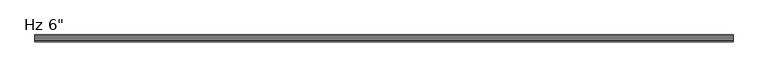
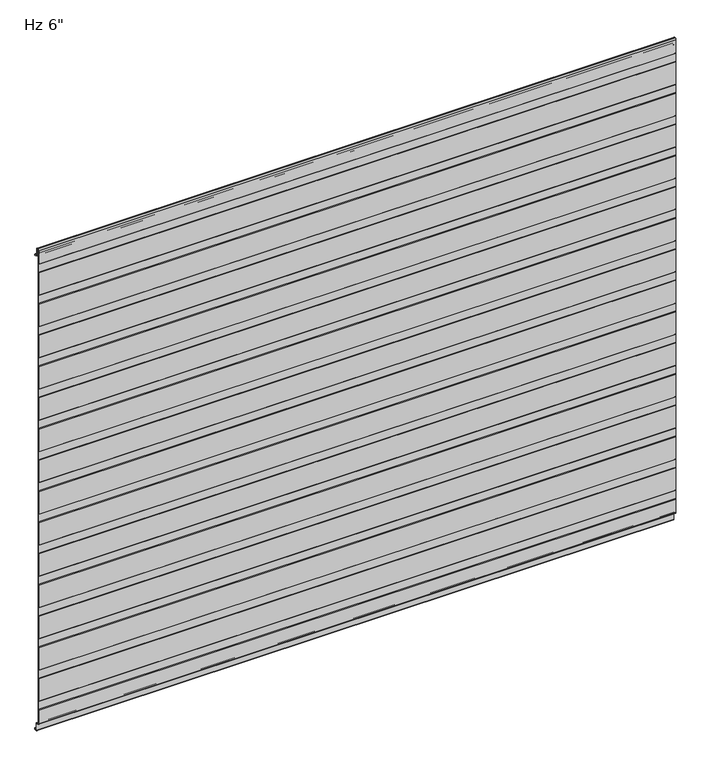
"""IFC4 building model written with IfcOpenShell, lengths in millimetres: plate geometry."""

from ifc_helpers import new_model, si_unit, frame, origin, place, context, project, spatial, polyline, circle_curve, source, transform, mapped, element, save
from ifc_brep_helpers import plane_surface, cylinder_surface, revolved_surface, advanced_brep


def plate_5d8f1cdd(model_context):
    return source(origin(), model_context, "Body", "AdvancedBrep", [
        advanced_brep(
        [(-730.0, -152.4, 966.9508592), (-730.0, -152.4, 1021.5303137), (-730.0, -151.2088405, 1022.6028385), (-730.0, -151.2088405, 1041.5009546), (-730.0, -152.4, 1042.5734794), (-730.0, -152.4, 1097.152934), (-730.0, -151.2088405, 1098.2254588), (-730.0, -151.2088405, 1117.1235749), (-730.0, -152.3999956, 1118.1960958), (-730.0, -152.3999956, 1150.8100652), (-730.0, -149.4227271, 1153.7873337), (-730.0, -148.3806285, 1153.7873337), (-730.0, -145.40336, 1150.8100652), (-730.0, -145.40336, 1136.6216801), (-730.0, -143.8154834, 1135.0338036), (-730.0, -139.4950653, 1135.0338036), (-730.0, -137.9065979, 1133.3929042), (-730.0, -137.9065979, 1131.0482432), (-730.0, -138.9060718, 1131.0482432), (-730.0, -138.9060718, 1133.4253365), (-730.0, -139.4950653, 1134.0338037), (-730.0, -143.8154834, 1134.0338037), (-730.0, -146.40336, 1136.6216801), (-730.0, -146.40336, 1150.8100652), (-730.0, -148.3806285, 1152.7873337), (-730.0, -149.4227271, 1152.7873337), (-730.0, -151.3999956, 1150.8100652), (-730.0, -151.3999956, 1118.6385351), (-730.0, -150.2088405, 1117.5660142), (-730.0, -150.2088405, 1097.7830195), (-730.0, -151.4, 1096.7104947), (-730.0, -151.4, 1043.0159187), (-730.0, -150.2088405, 1041.9433939), (-730.0, -150.2088405, 1022.1603992), (-730.0, -151.4, 1021.0878744), (-730.0, -151.4, 967.3932985), (-730.0, -150.2088405, 966.3207736), (-730.0, -150.2088405, 946.537779), (-730.0, -151.4, 945.4652541), (-730.0, -151.4, 891.7706782), (-730.0, -150.2088405, 890.6981534), (-730.0, -150.2088405, 870.9151587), (-730.0, -151.4, 869.8426339), (-730.0, -151.4, 816.148058), (-730.0, -150.2088405, 815.0755331), (-730.0, -150.2088405, 795.2925384), (-730.0, -151.4, 794.2200136), (-730.0, -151.4, 740.5254377), (-730.0, -150.2088405, 739.4529129), (-730.0, -150.2088405, 719.6699182), (-730.0, -151.4, 718.5973933), (-730.0, -151.4, 664.9028174), (-730.0, -150.2088405, 663.8302926), (-730.0, -150.2088405, 644.0472979), (-730.0, -151.4, 642.9747731), (-730.0, -151.4, 589.2801972), (-730.0, -150.2088405, 588.2076723), (-730.0, -150.2088405, 568.4246776), (-730.0, -151.4, 567.3521528), (-730.0, -151.4, 513.6575769), (-730.0, -150.2088405, 512.5850521), (-730.0, -150.2088405, 492.8020574), (-730.0, -151.4, 491.7295325), (-730.0, -151.4, 438.0349566), (-730.0, -150.2088405, 436.9624318), (-730.0, -150.2088405, 417.1794371), (-730.0, -151.4, 416.1069123), (-730.0, -151.4, 362.4123364), (-730.0, -150.2088405, 361.3398115), (-730.0, -150.2088405, 341.5568169), (-730.0, -151.4, 340.484292), (-730.0, -151.4, 286.7897161), (-730.0, -150.2088405, 285.7171913), (-730.0, -150.2088405, 265.9341966), (-730.0, -151.4, 264.8616718), (-730.0, -151.4, 211.1670958), (-730.0, -150.2088405, 210.094571), (-730.0, -150.2088405, 190.3115763), (-730.0, -151.4, 189.2390515), (-730.0, -151.4, 135.5444756), (-730.0, -150.2088405, 134.4719507), (-730.0, -150.2088405, 114.6889561), (-730.0, -151.4, 113.6164312), (-730.0, -151.4, 59.9218553), (-730.0, -150.2088405, 58.8493305), (-730.0, -150.2088405, 39.0663358), (-730.0, -151.4, 37.993811), (-730.0, -151.4, 5.82722), (-730.0, -149.4227096, 3.8499526), (-730.0, -147.1308258, 3.8499526), (-730.0, -143.1535573, -0.1273159), (-730.0, -143.1535573, -15.7237419), (-730.0, -142.5656807, -16.3116185), (-730.0, -139.494132, -16.3116185), (-730.0, -138.9062555, -15.7237419), (-730.0, -138.9062555, -13.3687064), (-730.0, -137.9062555, -13.3687064), (-730.0, -137.9062555, -15.7237419), (-730.0, -139.494132, -17.3116185), (-730.0, -142.5656807, -17.3116185), (-730.0, -144.1535573, -15.7237419), (-730.0, -144.1535573, -0.1273159), (-730.0, -147.1308258, 2.8499526), (-730.0, -149.4227096, 2.8499526), (-730.0, -152.3999782, 5.8272193), (-730.0, -152.4, 38.4362503), (-730.0, -151.2088405, 39.5087751), (-730.0, -151.2088405, 58.4068912), (-730.0, -152.4, 59.479416), (-730.0, -152.4, 114.0588705), (-730.0, -151.2088405, 115.1313954), (-730.0, -151.2088405, 134.0295114), (-730.0, -152.4, 135.1020363), (-730.0, -152.4, 189.6814908), (-730.0, -151.2088405, 190.7540156), (-730.0, -151.2088405, 209.6521317), (-730.0, -152.4, 210.7246565), (-730.0, -152.4, 265.3041111), (-730.0, -151.2088405, 266.3766359), (-730.0, -151.2088405, 285.274752), (-730.0, -152.4, 286.3472768), (-730.0, -152.4, 340.9267313), (-730.0, -151.2088405, 341.9992562), (-730.0, -151.2088405, 360.8973722), (-730.0, -152.4, 361.9698971), (-730.0, -152.4, 416.5493516), (-730.0, -151.2088405, 417.6218764), (-730.0, -151.2088405, 436.5199925), (-730.0, -152.4, 437.5925173), (-730.0, -152.4, 492.1719719), (-730.0, -151.2088405, 493.2444967), (-730.0, -151.2088405, 512.1426127), (-730.0, -152.4, 513.2151376), (-730.0, -152.4, 567.7945921), (-730.0, -151.2088405, 568.867117), (-730.0, -151.2088405, 587.765233), (-730.0, -152.4, 588.8377578), (-730.0, -152.4, 643.4172124), (-730.0, -151.2088405, 644.4897372), (-730.0, -151.2088405, 663.3878533), (-730.0, -152.4, 664.4603781), (-730.0, -152.4, 719.0398327), (-730.0, -151.2088405, 720.1123575), (-730.0, -151.2088405, 739.0104735), (-730.0, -152.4, 740.0829984), (-730.0, -152.4, 794.6624529), (-730.0, -151.2088405, 795.7349778), (-730.0, -151.2088405, 814.6330938), (-730.0, -152.4, 815.7056186), (-730.0, -152.4, 870.2850732), (-730.0, -151.2088405, 871.357598), (-730.0, -151.2088405, 890.2557141), (-730.0, -152.4, 891.3282389), (-730.0, -152.4, 945.9076934), (-730.0, -151.2088405, 946.9802183), (-730.0, -151.2088405, 965.8783343), (730.0, -152.4, 966.9508592), (730.0, -151.2088405, 965.8783343), (730.0, -151.2088405, 946.9802183), (730.0, -152.4, 945.9076934), (730.0, -152.4, 891.3282389), (730.0, -151.2088405, 890.2557141), (730.0, -151.2088405, 871.357598), (730.0, -152.4, 870.2850732), (730.0, -152.4, 815.7056186), (730.0, -151.2088405, 814.6330938), (730.0, -151.2088405, 795.7349778), (730.0, -152.4, 794.6624529), (730.0, -152.4, 740.0829984), (730.0, -151.2088405, 739.0104735), (730.0, -151.2088405, 720.1123575), (730.0, -152.4, 719.0398327), (730.0, -152.4, 664.4603781), (730.0, -151.2088405, 663.3878533), (730.0, -151.2088405, 644.4897372), (730.0, -152.4, 643.4172124), (730.0, -152.4, 588.8377578), (730.0, -151.2088405, 587.765233), (730.0, -151.2088405, 568.867117), (730.0, -152.4, 567.7945921), (730.0, -152.4, 513.2151376), (730.0, -151.2088405, 512.1426127), (730.0, -151.2088405, 493.2444967), (730.0, -152.4, 492.1719719), (730.0, -152.4, 437.5925173), (730.0, -151.2088405, 436.5199925), (730.0, -151.2088405, 417.6218764), (730.0, -152.4, 416.5493516), (730.0, -152.4, 361.9698971), (730.0, -151.2088405, 360.8973722), (730.0, -151.2088405, 341.9992562), (730.0, -152.4, 340.9267313), (730.0, -152.4, 286.3472768), (730.0, -151.2088405, 285.274752), (730.0, -151.2088405, 266.3766359), (730.0, -152.4, 265.3041111), (730.0, -152.4, 210.7246565), (730.0, -151.2088405, 209.6521317), (730.0, -151.2088405, 190.7540156), (730.0, -152.4, 189.6814908), (730.0, -152.4, 135.1020363), (730.0, -151.2088405, 134.0295114), (730.0, -151.2088405, 115.1313954), (730.0, -152.4, 114.0588705), (730.0, -152.4, 59.479416), (730.0, -151.2088405, 58.4068912), (730.0, -151.2088405, 39.5087751), (730.0, -152.4, 38.4362503), (730.0, -152.4, 5.8272193), (730.0, -149.4227096, 2.8499526), (730.0, -147.1308258, 2.8499526), (730.0, -144.1535573, -0.1273159), (730.0, -144.1535573, -15.7237419), (730.0, -142.5656807, -17.3116185), (730.0, -139.494132, -17.3116185), (730.0, -137.9062555, -15.7237419), (730.0, -137.9062555, -13.3687064), (730.0, -138.9062555, -13.3687064), (730.0, -138.9062555, -15.7237419), (730.0, -139.494132, -16.3116185), (730.0, -142.5656807, -16.3116185), (730.0, -143.1535573, -15.7237419), (730.0, -143.1535573, -0.1273159), (730.0, -147.1308258, 3.8499526), (730.0, -149.4227096, 3.8499526), (730.0, -151.3999782, 5.82722), (730.0, -151.4, 37.993811), (730.0, -150.2088405, 39.0663358), (730.0, -150.2088405, 58.8493305), (730.0, -151.4, 59.9218553), (730.0, -151.4, 113.6164312), (730.0, -150.2088405, 114.6889561), (730.0, -150.2088405, 134.4719507), (730.0, -151.4, 135.5444756), (730.0, -151.4, 189.2390515), (730.0, -150.2088405, 190.3115763), (730.0, -150.2088405, 210.094571), (730.0, -151.4, 211.1670958), (730.0, -151.4, 264.8616718), (730.0, -150.2088405, 265.9341966), (730.0, -150.2088405, 285.7171913), (730.0, -151.4, 286.7897161), (730.0, -151.4, 340.484292), (730.0, -150.2088405, 341.5568169), (730.0, -150.2088405, 361.3398115), (730.0, -151.4, 362.4123364), (730.0, -151.4, 416.1069123), (730.0, -150.2088405, 417.1794371), (730.0, -150.2088405, 436.9624318), (730.0, -151.4, 438.0349566), (730.0, -151.4, 491.7295325), (730.0, -150.2088405, 492.8020574), (730.0, -150.2088405, 512.5850521), (730.0, -151.4, 513.6575769), (730.0, -151.4, 567.3521528), (730.0, -150.2088405, 568.4246776), (730.0, -150.2088405, 588.2076723), (730.0, -151.4, 589.2801972), (730.0, -151.4, 642.9747731), (730.0, -150.2088405, 644.0472979), (730.0, -150.2088405, 663.8302926), (730.0, -151.4, 664.9028174), (730.0, -151.4, 718.5973933), (730.0, -150.2088405, 719.6699182), (730.0, -150.2088405, 739.4529129), (730.0, -151.4, 740.5254377), (730.0, -151.4, 794.2200136), (730.0, -150.2088405, 795.2925384), (730.0, -150.2088405, 815.0755331), (730.0, -151.4, 816.148058), (730.0, -151.4, 869.8426339), (730.0, -150.2088405, 870.9151587), (730.0, -150.2088405, 890.6981534), (730.0, -151.4, 891.7706782), (730.0, -151.4, 945.4652541), (730.0, -150.2088405, 946.537779), (730.0, -150.2088405, 966.3207736), (730.0, -151.4, 967.3932985), (730.0, -151.4, 1021.0878744), (730.0, -150.2088405, 1022.1603992), (730.0, -150.2088405, 1041.9433939), (730.0, -151.4, 1043.0159187), (730.0, -151.4, 1096.7104947), (730.0, -150.2088405, 1097.7830195), (730.0, -150.2088405, 1117.5660142), (730.0, -151.3999956, 1118.6385351), (730.0, -151.3999956, 1150.8100652), (730.0, -149.4227271, 1152.7873337), (730.0, -148.3806285, 1152.7873337), (730.0, -146.40336, 1150.8100652), (730.0, -146.40336, 1136.6216801), (730.0, -143.8154834, 1134.0338036), (730.0, -139.4950653, 1134.0338037), (730.0, -138.9060718, 1133.4253365), (730.0, -138.9060718, 1131.0482432), (730.0, -137.9065979, 1131.0482432), (730.0, -137.9065979, 1133.3929042), (730.0, -139.4950653, 1135.0338037), (730.0, -143.8154834, 1135.0338036), (730.0, -145.40336, 1136.6216801), (730.0, -145.40336, 1150.8100652), (730.0, -148.3806285, 1153.7873337), (730.0, -149.4227271, 1153.7873337), (730.0, -152.3999956, 1150.8100652), (730.0, -152.3999956, 1118.1960958), (730.0, -151.2088405, 1117.1235749), (730.0, -151.2088405, 1098.2254588), (730.0, -152.4, 1097.152934), (730.0, -152.4, 1042.5734794), (730.0, -151.2088405, 1041.5009546), (730.0, -151.2088405, 1022.6028385), (730.0, -152.4, 1021.5303137)],
        [
            (0, 1),
            (1, 2),
            (2, 3),
            (3, 4),
            (4, 5),
            (5, 6),
            (6, 7),
            (7, 8),
            (8, 9),
            (9, 10, circle_curve(frame((-730.0, -149.4227271, 1150.8100652), z_axis=(-1.0, 0.0, 0.0), x_axis=(0.0, 0.0, -1.0)), 2.9772685)),
            (10, 11),
            (11, 12, circle_curve(frame((-730.0, -148.3806285, 1150.8100652), z_axis=(-1.0, 0.0, 0.0), x_axis=(0.0, 0.0, -1.0)), 2.9772685)),
            (12, 13),
            (13, 14, circle_curve(frame((-730.0, -143.8154834, 1136.6216801), z_axis=(1.0, 0.0, 0.0), x_axis=(0.0, 0.0, -1.0)), 1.5878765)),
            (14, 15),
            (15, 16, circle_curve(frame((-730.0, -139.4950653, 1133.4444985), z_axis=(-1.0, 0.0, 0.0), x_axis=(0.0, 0.0, -1.0)), 1.5893052)),
            (16, 17),
            (17, 18),
            (18, 19),
            (19, 20, circle_curve(frame((-730.0, -139.4950653, 1133.4444985), z_axis=(1.0, 0.0, 0.0), x_axis=(0.0, 0.0, -1.0)), 0.5893052)),
            (20, 21),
            (21, 22, circle_curve(frame((-730.0, -143.8154834, 1136.6216801), z_axis=(-1.0, 0.0, 0.0), x_axis=(0.0, 0.0, -1.0)), 2.5878765)),
            (22, 23),
            (23, 24, circle_curve(frame((-730.0, -148.3806285, 1150.8100652), z_axis=(1.0, 0.0, 0.0), x_axis=(0.0, 0.0, -1.0)), 1.9772685)),
            (24, 25),
            (25, 26, circle_curve(frame((-730.0, -149.4227271, 1150.8100652), z_axis=(1.0, 0.0, 0.0), x_axis=(0.0, 0.0, -1.0)), 1.9772685)),
            (26, 27),
            (27, 28),
            (28, 29),
            (29, 30),
            (30, 31),
            (31, 32),
            (32, 33),
            (33, 34),
            (34, 35),
            (35, 36),
            (36, 37),
            (37, 38),
            (38, 39),
            (39, 40),
            (40, 41),
            (41, 42),
            (42, 43),
            (43, 44),
            (44, 45),
            (45, 46),
            (46, 47),
            (47, 48),
            (48, 49),
            (49, 50),
            (50, 51),
            (51, 52),
            (52, 53),
            (53, 54),
            (54, 55),
            (55, 56),
            (56, 57),
            (57, 58),
            (58, 59),
            (59, 60),
            (60, 61),
            (61, 62),
            (62, 63),
            (63, 64),
            (64, 65),
            (65, 66),
            (66, 67),
            (67, 68),
            (68, 69),
            (69, 70),
            (70, 71),
            (71, 72),
            (72, 73),
            (73, 74),
            (74, 75),
            (75, 76),
            (76, 77),
            (77, 78),
            (78, 79),
            (79, 80),
            (80, 81),
            (81, 82),
            (82, 83),
            (83, 84),
            (84, 85),
            (85, 86),
            (86, 87),
            (87, 88, circle_curve(frame((-730.0, -149.4227096, 5.8272212), z_axis=(1.0, 0.0, 0.0), x_axis=(0.0, 0.0, -1.0)), 1.9772685)),
            (88, 89),
            (89, 90, circle_curve(frame((-730.0, -147.1308258, -0.1273159), z_axis=(-1.0, 0.0, 0.0), x_axis=(0.0, 0.0, -1.0)), 3.9772685)),
            (90, 91),
            (91, 92, circle_curve(frame((-730.0, -142.5656807, -15.7237419), z_axis=(1.0, 0.0, 0.0), x_axis=(0.0, 0.0, -1.0)), 0.5878765)),
            (92, 93),
            (93, 94, circle_curve(frame((-730.0, -139.494132, -15.7237419), z_axis=(1.0, 0.0, 0.0), x_axis=(0.0, 0.0, -1.0)), 0.5878765)),
            (94, 95),
            (95, 96),
            (96, 97),
            (97, 98, circle_curve(frame((-730.0, -139.494132, -15.7237419), z_axis=(-1.0, 0.0, 0.0), x_axis=(0.0, 0.0, -1.0)), 1.5878765)),
            (98, 99),
            (99, 100, circle_curve(frame((-730.0, -142.5656807, -15.7237419), z_axis=(-1.0, 0.0, 0.0), x_axis=(0.0, 0.0, -1.0)), 1.5878765)),
            (100, 101),
            (101, 102, circle_curve(frame((-730.0, -147.1308258, -0.1273159), z_axis=(1.0, 0.0, 0.0), x_axis=(0.0, 0.0, -1.0)), 2.9772685)),
            (102, 103),
            (103, 104, circle_curve(frame((-730.0, -149.4227096, 5.8272211), z_axis=(-1.0, 0.0, 0.0), x_axis=(0.0, 0.0, -1.0)), 2.9772685)),
            (104, 105),
            (105, 106),
            (106, 107),
            (107, 108),
            (108, 109),
            (109, 110),
            (110, 111),
            (111, 112),
            (112, 113),
            (113, 114),
            (114, 115),
            (115, 116),
            (116, 117),
            (117, 118),
            (118, 119),
            (119, 120),
            (120, 121),
            (121, 122),
            (122, 123),
            (123, 124),
            (124, 125),
            (125, 126),
            (126, 127),
            (127, 128),
            (128, 129),
            (129, 130),
            (130, 131),
            (131, 132),
            (132, 133),
            (133, 134),
            (134, 135),
            (135, 136),
            (136, 137),
            (137, 138),
            (138, 139),
            (139, 140),
            (140, 141),
            (141, 142),
            (142, 143),
            (143, 144),
            (144, 145),
            (145, 146),
            (146, 147),
            (147, 148),
            (148, 149),
            (149, 150),
            (150, 151),
            (151, 152),
            (152, 153),
            (153, 154),
            (154, 155),
            (155, 0),
            (156, 157),
            (157, 158),
            (158, 159),
            (159, 160),
            (160, 161),
            (161, 162),
            (162, 163),
            (163, 164),
            (164, 165),
            (165, 166),
            (166, 167),
            (167, 168),
            (168, 169),
            (169, 170),
            (170, 171),
            (171, 172),
            (172, 173),
            (173, 174),
            (174, 175),
            (175, 176),
            (176, 177),
            (177, 178),
            (178, 179),
            (179, 180),
            (180, 181),
            (181, 182),
            (182, 183),
            (183, 184),
            (184, 185),
            (185, 186),
            (186, 187),
            (187, 188),
            (188, 189),
            (189, 190),
            (190, 191),
            (191, 192),
            (192, 193),
            (193, 194),
            (194, 195),
            (195, 196),
            (196, 197),
            (197, 198),
            (198, 199),
            (199, 200),
            (200, 201),
            (201, 202),
            (202, 203),
            (203, 204),
            (204, 205),
            (205, 206),
            (206, 207),
            (207, 208),
            (208, 209, circle_curve(frame((730.0, -149.4227096, 5.8272211), z_axis=(1.0, 0.0, 0.0), x_axis=(0.0, 0.0, -1.0)), 2.9772685)),
            (209, 210),
            (210, 211, circle_curve(frame((730.0, -147.1308258, -0.1273159), z_axis=(-1.0, 0.0, 0.0), x_axis=(0.0, 0.0, -1.0)), 2.9772685)),
            (211, 212),
            (212, 213, circle_curve(frame((730.0, -142.5656807, -15.7237419), z_axis=(1.0, 0.0, 0.0), x_axis=(0.0, 0.0, -1.0)), 1.5878765)),
            (213, 214),
            (214, 215, circle_curve(frame((730.0, -139.494132, -15.7237419), z_axis=(1.0, 0.0, 0.0), x_axis=(0.0, 0.0, -1.0)), 1.5878765)),
            (215, 216),
            (216, 217),
            (217, 218),
            (218, 219, circle_curve(frame((730.0, -139.494132, -15.7237419), z_axis=(-1.0, 0.0, 0.0), x_axis=(0.0, 0.0, -1.0)), 0.5878765)),
            (219, 220),
            (220, 221, circle_curve(frame((730.0, -142.5656807, -15.7237419), z_axis=(-1.0, 0.0, 0.0), x_axis=(0.0, 0.0, -1.0)), 0.5878765)),
            (221, 222),
            (222, 223, circle_curve(frame((730.0, -147.1308258, -0.1273159), z_axis=(1.0, 0.0, 0.0), x_axis=(0.0, 0.0, -1.0)), 3.9772685)),
            (223, 224),
            (224, 225, circle_curve(frame((730.0, -149.4227096, 5.8272212), z_axis=(-1.0, 0.0, 0.0), x_axis=(0.0, 0.0, -1.0)), 1.9772685)),
            (225, 226),
            (226, 227),
            (227, 228),
            (228, 229),
            (229, 230),
            (230, 231),
            (231, 232),
            (232, 233),
            (233, 234),
            (234, 235),
            (235, 236),
            (236, 237),
            (237, 238),
            (238, 239),
            (239, 240),
            (240, 241),
            (241, 242),
            (242, 243),
            (243, 244),
            (244, 245),
            (245, 246),
            (246, 247),
            (247, 248),
            (248, 249),
            (249, 250),
            (250, 251),
            (251, 252),
            (252, 253),
            (253, 254),
            (254, 255),
            (255, 256),
            (256, 257),
            (257, 258),
            (258, 259),
            (259, 260),
            (260, 261),
            (261, 262),
            (262, 263),
            (263, 264),
            (264, 265),
            (265, 266),
            (266, 267),
            (267, 268),
            (268, 269),
            (269, 270),
            (270, 271),
            (271, 272),
            (272, 273),
            (273, 274),
            (274, 275),
            (275, 276),
            (276, 277),
            (277, 278),
            (278, 279),
            (279, 280),
            (280, 281),
            (281, 282),
            (282, 283),
            (283, 284),
            (284, 285),
            (285, 286),
            (286, 287, circle_curve(frame((730.0, -149.4227271, 1150.8100652), z_axis=(-1.0, 0.0, 0.0), x_axis=(0.0, 0.0, -1.0)), 1.9772685)),
            (287, 288),
            (288, 289, circle_curve(frame((730.0, -148.3806285, 1150.8100652), z_axis=(-1.0, 0.0, 0.0), x_axis=(0.0, 0.0, -1.0)), 1.9772685)),
            (289, 290),
            (290, 291, circle_curve(frame((730.0, -143.8154834, 1136.6216801), z_axis=(1.0, 0.0, 0.0), x_axis=(0.0, 0.0, -1.0)), 2.5878765)),
            (291, 292),
            (292, 293, circle_curve(frame((730.0, -139.4950653, 1133.4444985), z_axis=(-1.0, 0.0, 0.0), x_axis=(0.0, 0.0, -1.0)), 0.5893052)),
            (293, 294),
            (294, 295),
            (295, 296),
            (296, 297, circle_curve(frame((730.0, -139.4950653, 1133.4444985), z_axis=(1.0, 0.0, 0.0), x_axis=(0.0, 0.0, -1.0)), 1.5893052)),
            (297, 298),
            (298, 299, circle_curve(frame((730.0, -143.8154834, 1136.6216801), z_axis=(-1.0, 0.0, 0.0), x_axis=(0.0, 0.0, -1.0)), 1.5878765)),
            (299, 300),
            (300, 301, circle_curve(frame((730.0, -148.3806285, 1150.8100652), z_axis=(1.0, 0.0, 0.0), x_axis=(0.0, 0.0, -1.0)), 2.9772685)),
            (301, 302),
            (302, 303, circle_curve(frame((730.0, -149.4227271, 1150.8100652), z_axis=(1.0, 0.0, 0.0), x_axis=(0.0, 0.0, -1.0)), 2.9772685)),
            (303, 304),
            (304, 305),
            (305, 306),
            (306, 307),
            (307, 308),
            (308, 309),
            (309, 310),
            (310, 311),
            (311, 156),
            (155, 157),
            (156, 0),
            (154, 158),
            (153, 159),
            (152, 160),
            (151, 161),
            (150, 162),
            (149, 163),
            (148, 164),
            (147, 165),
            (146, 166),
            (145, 167),
            (144, 168),
            (143, 169),
            (142, 170),
            (141, 171),
            (140, 172),
            (139, 173),
            (138, 174),
            (137, 175),
            (136, 176),
            (135, 177),
            (134, 178),
            (133, 179),
            (132, 180),
            (131, 181),
            (130, 182),
            (129, 183),
            (128, 184),
            (127, 185),
            (126, 186),
            (125, 187),
            (124, 188),
            (123, 189),
            (122, 190),
            (121, 191),
            (120, 192),
            (119, 193),
            (118, 194),
            (117, 195),
            (116, 196),
            (115, 197),
            (114, 198),
            (113, 199),
            (112, 200),
            (111, 201),
            (110, 202),
            (109, 203),
            (108, 204),
            (107, 205),
            (106, 206),
            (105, 207),
            (104, 208),
            (103, 209),
            (102, 210),
            (101, 211),
            (100, 212),
            (99, 213),
            (98, 214),
            (97, 215),
            (96, 216),
            (95, 217),
            (94, 218),
            (93, 219),
            (92, 220),
            (91, 221),
            (90, 222),
            (89, 223),
            (88, 224),
            (87, 225),
            (86, 226),
            (85, 227),
            (84, 228),
            (83, 229),
            (82, 230),
            (81, 231),
            (80, 232),
            (79, 233),
            (78, 234),
            (77, 235),
            (76, 236),
            (75, 237),
            (74, 238),
            (73, 239),
            (72, 240),
            (71, 241),
            (70, 242),
            (69, 243),
            (68, 244),
            (67, 245),
            (66, 246),
            (65, 247),
            (64, 248),
            (63, 249),
            (62, 250),
            (61, 251),
            (60, 252),
            (59, 253),
            (58, 254),
            (57, 255),
            (56, 256),
            (55, 257),
            (54, 258),
            (53, 259),
            (52, 260),
            (51, 261),
            (50, 262),
            (49, 263),
            (48, 264),
            (47, 265),
            (46, 266),
            (45, 267),
            (44, 268),
            (43, 269),
            (42, 270),
            (41, 271),
            (40, 272),
            (39, 273),
            (38, 274),
            (37, 275),
            (36, 276),
            (35, 277),
            (34, 278),
            (33, 279),
            (32, 280),
            (31, 281),
            (30, 282),
            (29, 283),
            (28, 284),
            (27, 285),
            (26, 286),
            (25, 287),
            (24, 288),
            (23, 289),
            (22, 290),
            (21, 291),
            (20, 292),
            (19, 293),
            (18, 294),
            (17, 295),
            (16, 296),
            (15, 297),
            (14, 298),
            (13, 299),
            (12, 300),
            (11, 301),
            (10, 302),
            (9, 303),
            (8, 304),
            (7, 305),
            (6, 306),
            (5, 307),
            (4, 308),
            (3, 309),
            (2, 310),
            (1, 311),
        ],
        [
            plane_surface(frame((-730.0, -152.4, 576.2625), z_axis=(-1.0, 0.0, 0.0), x_axis=(0.0, -1.0, 0.0))),
            plane_surface(frame((730.0, -152.4, 576.2625), z_axis=(1.0, 0.0, 0.0), x_axis=(0.0, -1.0, 0.0))),
            plane_surface(frame((-730.0, -152.4, 966.9508592), z_axis=(0.0, -0.6691306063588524, -0.7431448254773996), x_axis=(1.0, 0.0, 0.0))),
            plane_surface(frame((-730.0, -151.2088405, 965.8783343), z_axis=(0.0, -1.0, 0.0), x_axis=(1.0, 0.0, 0.0))),
            plane_surface(frame((-730.0, -151.2088405, 946.9802183), z_axis=(0.0, -0.6691306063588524, 0.7431448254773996), x_axis=(1.0, 0.0, 0.0))),
            plane_surface(frame((-730.0, -152.4, 945.9076934), z_axis=(0.0, -1.0, 0.0), x_axis=(1.0, 0.0, 0.0))),
            plane_surface(frame((-730.0, -152.4, 891.3282389), z_axis=(0.0, -0.6691306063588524, -0.7431448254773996), x_axis=(1.0, 0.0, 0.0))),
            plane_surface(frame((-730.0, -151.2088405, 890.2557141), z_axis=(0.0, -1.0, 0.0), x_axis=(1.0, 0.0, 0.0))),
            plane_surface(frame((-730.0, -151.2088405, 871.357598), z_axis=(0.0, -0.6691306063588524, 0.7431448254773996), x_axis=(1.0, 0.0, 0.0))),
            plane_surface(frame((-730.0, -152.4, 870.2850732), z_axis=(0.0, -1.0, 0.0), x_axis=(1.0, 0.0, 0.0))),
            plane_surface(frame((-730.0, -152.4, 815.7056186), z_axis=(0.0, -0.6691306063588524, -0.7431448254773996), x_axis=(1.0, 0.0, 0.0))),
            plane_surface(frame((-730.0, -151.2088405, 814.6330938), z_axis=(0.0, -1.0, 0.0), x_axis=(1.0, 0.0, 0.0))),
            plane_surface(frame((-730.0, -151.2088405, 795.7349778), z_axis=(0.0, -0.6691306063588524, 0.7431448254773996), x_axis=(1.0, 0.0, 0.0))),
            plane_surface(frame((-730.0, -152.4, 794.6624529), z_axis=(0.0, -1.0, 0.0), x_axis=(1.0, 0.0, 0.0))),
            plane_surface(frame((-730.0, -152.4, 740.0829984), z_axis=(0.0, -0.6691306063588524, -0.7431448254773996), x_axis=(1.0, 0.0, 0.0))),
            plane_surface(frame((-730.0, -151.2088405, 739.0104735), z_axis=(0.0, -1.0, 0.0), x_axis=(1.0, 0.0, 0.0))),
            plane_surface(frame((-730.0, -151.2088405, 720.1123575), z_axis=(0.0, -0.6691306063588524, 0.7431448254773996), x_axis=(1.0, 0.0, 0.0))),
            plane_surface(frame((-730.0, -152.4, 719.0398327), z_axis=(0.0, -1.0, 0.0), x_axis=(1.0, 0.0, 0.0))),
            plane_surface(frame((-730.0, -152.4, 664.4603781), z_axis=(0.0, -0.6691306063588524, -0.7431448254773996), x_axis=(1.0, 0.0, 0.0))),
            plane_surface(frame((-730.0, -151.2088405, 663.3878533), z_axis=(0.0, -1.0, 0.0), x_axis=(1.0, 0.0, 0.0))),
            plane_surface(frame((-730.0, -151.2088405, 644.4897372), z_axis=(0.0, -0.6691306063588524, 0.7431448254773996), x_axis=(1.0, 0.0, 0.0))),
            plane_surface(frame((-730.0, -152.4, 643.4172124), z_axis=(0.0, -1.0, 0.0), x_axis=(1.0, 0.0, 0.0))),
            plane_surface(frame((-730.0, -152.4, 588.8377578), z_axis=(0.0, -0.6691306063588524, -0.7431448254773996), x_axis=(1.0, 0.0, 0.0))),
            plane_surface(frame((-730.0, -151.2088405, 587.765233), z_axis=(0.0, -1.0, 0.0), x_axis=(1.0, 0.0, 0.0))),
            plane_surface(frame((-730.0, -151.2088405, 568.867117), z_axis=(0.0, -0.6691306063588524, 0.7431448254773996), x_axis=(1.0, 0.0, 0.0))),
            plane_surface(frame((-730.0, -152.4, 567.7945921), z_axis=(0.0, -1.0, 0.0), x_axis=(1.0, 0.0, 0.0))),
            plane_surface(frame((-730.0, -152.4, 513.2151376), z_axis=(0.0, -0.6691306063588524, -0.7431448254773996), x_axis=(1.0, 0.0, 0.0))),
            plane_surface(frame((-730.0, -151.2088405, 512.1426127), z_axis=(0.0, -1.0, 0.0), x_axis=(1.0, 0.0, 0.0))),
            plane_surface(frame((-730.0, -151.2088405, 493.2444967), z_axis=(0.0, -0.6691306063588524, 0.7431448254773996), x_axis=(1.0, 0.0, 0.0))),
            plane_surface(frame((-730.0, -152.4, 492.1719719), z_axis=(0.0, -1.0, 0.0), x_axis=(1.0, 0.0, 0.0))),
            plane_surface(frame((-730.0, -152.4, 437.5925173), z_axis=(0.0, -0.6691306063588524, -0.7431448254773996), x_axis=(1.0, 0.0, 0.0))),
            plane_surface(frame((-730.0, -151.2088405, 436.5199925), z_axis=(0.0, -1.0, 0.0), x_axis=(1.0, 0.0, 0.0))),
            plane_surface(frame((-730.0, -151.2088405, 417.6218764), z_axis=(0.0, -0.6691306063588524, 0.7431448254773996), x_axis=(1.0, 0.0, 0.0))),
            plane_surface(frame((-730.0, -152.4, 416.5493516), z_axis=(0.0, -1.0, 0.0), x_axis=(1.0, 0.0, 0.0))),
            plane_surface(frame((-730.0, -152.4, 361.9698971), z_axis=(0.0, -0.6691306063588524, -0.7431448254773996), x_axis=(1.0, 0.0, 0.0))),
            plane_surface(frame((-730.0, -151.2088405, 360.8973722), z_axis=(0.0, -1.0, 0.0), x_axis=(1.0, 0.0, 0.0))),
            plane_surface(frame((-730.0, -151.2088405, 341.9992562), z_axis=(0.0, -0.6691306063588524, 0.7431448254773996), x_axis=(1.0, 0.0, 0.0))),
            plane_surface(frame((-730.0, -152.4, 340.9267313), z_axis=(0.0, -1.0, 0.0), x_axis=(1.0, 0.0, 0.0))),
            plane_surface(frame((-730.0, -152.4, 286.3472768), z_axis=(0.0, -0.6691306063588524, -0.7431448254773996), x_axis=(1.0, 0.0, 0.0))),
            plane_surface(frame((-730.0, -151.2088405, 285.274752), z_axis=(0.0, -1.0, 0.0), x_axis=(1.0, 0.0, 0.0))),
            plane_surface(frame((-730.0, -151.2088405, 266.3766359), z_axis=(0.0, -0.6691306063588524, 0.7431448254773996), x_axis=(1.0, 0.0, 0.0))),
            plane_surface(frame((-730.0, -152.4, 265.3041111), z_axis=(0.0, -1.0, 0.0), x_axis=(1.0, 0.0, 0.0))),
            plane_surface(frame((-730.0, -152.4, 210.7246565), z_axis=(0.0, -0.6691306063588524, -0.7431448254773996), x_axis=(1.0, 0.0, 0.0))),
            plane_surface(frame((-730.0, -151.2088405, 209.6521317), z_axis=(0.0, -1.0, 0.0), x_axis=(1.0, 0.0, 0.0))),
            plane_surface(frame((-730.0, -151.2088405, 190.7540156), z_axis=(0.0, -0.6691306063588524, 0.7431448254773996), x_axis=(1.0, 0.0, 0.0))),
            plane_surface(frame((-730.0, -152.4, 189.6814908), z_axis=(0.0, -1.0, 0.0), x_axis=(1.0, 0.0, 0.0))),
            plane_surface(frame((-730.0, -152.4, 135.1020363), z_axis=(0.0, -0.6691306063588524, -0.7431448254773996), x_axis=(1.0, 0.0, 0.0))),
            plane_surface(frame((-730.0, -151.2088405, 134.0295114), z_axis=(0.0, -1.0, 0.0), x_axis=(1.0, 0.0, 0.0))),
            plane_surface(frame((-730.0, -151.2088405, 115.1313954), z_axis=(0.0, -0.6691306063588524, 0.7431448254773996), x_axis=(1.0, 0.0, 0.0))),
            plane_surface(frame((-730.0, -152.4, 114.0588705), z_axis=(0.0, -1.0, 0.0), x_axis=(1.0, 0.0, 0.0))),
            plane_surface(frame((-730.0, -152.4, 59.479416), z_axis=(0.0, -0.6691306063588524, -0.7431448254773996), x_axis=(1.0, 0.0, 0.0))),
            plane_surface(frame((-730.0, -151.2088405, 58.4068912), z_axis=(0.0, -1.0, 0.0), x_axis=(1.0, 0.0, 0.0))),
            plane_surface(frame((-730.0, -151.2088405, 39.5087751), z_axis=(0.0, -0.6691306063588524, 0.7431448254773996), x_axis=(1.0, 0.0, 0.0))),
            plane_surface(frame((-730.0, -152.4, 38.4362503), z_axis=(0.0, -1.0, 0.0), x_axis=(1.0, 0.0, 0.0))),
            cylinder_surface(frame((-730.0, -149.4227096, 5.8272211), z_axis=(-1.0, 0.0, 0.0), x_axis=(0.0, 0.0, -1.0)), 2.9772685),
            plane_surface(frame((-730.0, -149.4227096, 2.8499526), z_axis=(0.0, 0.0, -1.0), x_axis=(1.0, 0.0, 0.0))),
            revolved_surface(polyline([(730.0, -147.1308258, -3.1045844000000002), (-730.0, -147.1308258, -3.1045844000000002)]), (-730.0, -147.1308258, -0.1273159), (1.0, 0.0, 0.0)),
            plane_surface(frame((-730.0, -144.1535573, -0.1273159), z_axis=(0.0, -1.0, 0.0), x_axis=(1.0, 0.0, 0.0))),
            cylinder_surface(frame((-730.0, -142.5656807, -15.7237419), z_axis=(-1.0, 0.0, 0.0), x_axis=(0.0, 0.0, -1.0)), 1.5878765),
            plane_surface(frame((-730.0, -142.5656807, -17.3116185), z_axis=(0.0, 0.0, -1.0), x_axis=(1.0, 0.0, 0.0))),
            cylinder_surface(frame((-730.0, -139.494132, -15.7237419), z_axis=(-1.0, 0.0, 0.0), x_axis=(0.0, 0.0, -1.0)), 1.5878765),
            plane_surface(frame((-730.0, -137.9062555, -15.7237419), z_axis=(0.0, 1.0, 0.0), x_axis=(1.0, 0.0, 0.0))),
            plane_surface(frame((-730.0, -137.9062555, -13.3687064), z_axis=(0.0, 0.0, 1.0), x_axis=(1.0, 0.0, 0.0))),
            plane_surface(frame((-730.0, -138.9062555, -13.3687064), z_axis=(0.0, -1.0, 0.0), x_axis=(1.0, 0.0, 0.0))),
            revolved_surface(polyline([(730.0, -139.494132, -16.3116184), (-730.0, -139.494132, -16.3116184)]), (-730.0, -139.494132, -15.7237419), (1.0, 0.0, 0.0)),
            plane_surface(frame((-730.0, -139.494132, -16.3116185), z_axis=(0.0, 0.0, 1.0), x_axis=(1.0, 0.0, 0.0))),
            revolved_surface(polyline([(730.0, -142.5656807, -16.3116184), (-730.0, -142.5656807, -16.3116184)]), (-730.0, -142.5656807, -15.7237419), (1.0, 0.0, 0.0)),
            plane_surface(frame((-730.0, -143.1535573, -15.7237419), z_axis=(0.0, 1.0, 0.0), x_axis=(1.0, 0.0, 0.0))),
            cylinder_surface(frame((-730.0, -147.1308258, -0.1273159), z_axis=(-1.0, 0.0, 0.0), x_axis=(0.0, 0.0, -1.0)), 3.9772685),
            plane_surface(frame((-730.0, -147.1308258, 3.8499526), z_axis=(0.0, 0.0, 1.0), x_axis=(1.0, 0.0, 0.0))),
            revolved_surface(polyline([(730.0, -149.4227096, 3.8499527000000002), (-730.0, -149.4227096, 3.8499527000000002)]), (-730.0, -149.4227096, 5.8272212), (1.0, 0.0, 0.0)),
            plane_surface(frame((-730.0, -151.4, 5.82722), z_axis=(0.0, 1.0, 0.0), x_axis=(1.0, 0.0, 0.0))),
            plane_surface(frame((-730.0, -151.4, 37.993811), z_axis=(0.0, 0.6691306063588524, -0.7431448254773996), x_axis=(1.0, 0.0, 0.0))),
            plane_surface(frame((-730.0, -150.2088405, 39.0663358), z_axis=(0.0, 1.0, 0.0), x_axis=(1.0, 0.0, 0.0))),
            plane_surface(frame((-730.0, -150.2088405, 58.8493305), z_axis=(0.0, 0.6691306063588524, 0.7431448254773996), x_axis=(1.0, 0.0, 0.0))),
            plane_surface(frame((-730.0, -151.4, 59.9218553), z_axis=(0.0, 1.0, 0.0), x_axis=(1.0, 0.0, 0.0))),
            plane_surface(frame((-730.0, -151.4, 113.6164312), z_axis=(0.0, 0.6691306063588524, -0.7431448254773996), x_axis=(1.0, 0.0, 0.0))),
            plane_surface(frame((-730.0, -150.2088405, 114.6889561), z_axis=(0.0, 1.0, 0.0), x_axis=(1.0, 0.0, 0.0))),
            plane_surface(frame((-730.0, -150.2088405, 134.4719507), z_axis=(0.0, 0.6691306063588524, 0.7431448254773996), x_axis=(1.0, 0.0, 0.0))),
            plane_surface(frame((-730.0, -151.4, 135.5444756), z_axis=(0.0, 1.0, 0.0), x_axis=(1.0, 0.0, 0.0))),
            plane_surface(frame((-730.0, -151.4, 189.2390515), z_axis=(0.0, 0.6691306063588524, -0.7431448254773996), x_axis=(1.0, 0.0, 0.0))),
            plane_surface(frame((-730.0, -150.2088405, 190.3115763), z_axis=(0.0, 1.0, 0.0), x_axis=(1.0, 0.0, 0.0))),
            plane_surface(frame((-730.0, -150.2088405, 210.094571), z_axis=(0.0, 0.6691306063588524, 0.7431448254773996), x_axis=(1.0, 0.0, 0.0))),
            plane_surface(frame((-730.0, -151.4, 211.1670958), z_axis=(0.0, 1.0, 0.0), x_axis=(1.0, 0.0, 0.0))),
            plane_surface(frame((-730.0, -151.4, 264.8616718), z_axis=(0.0, 0.6691306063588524, -0.7431448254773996), x_axis=(1.0, 0.0, 0.0))),
            plane_surface(frame((-730.0, -150.2088405, 265.9341966), z_axis=(0.0, 1.0, 0.0), x_axis=(1.0, 0.0, 0.0))),
            plane_surface(frame((-730.0, -150.2088405, 285.7171913), z_axis=(0.0, 0.6691306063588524, 0.7431448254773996), x_axis=(1.0, 0.0, 0.0))),
            plane_surface(frame((-730.0, -151.4, 286.7897161), z_axis=(0.0, 1.0, 0.0), x_axis=(1.0, 0.0, 0.0))),
            plane_surface(frame((-730.0, -151.4, 340.484292), z_axis=(0.0, 0.6691306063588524, -0.7431448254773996), x_axis=(1.0, 0.0, 0.0))),
            plane_surface(frame((-730.0, -150.2088405, 341.5568169), z_axis=(0.0, 1.0, 0.0), x_axis=(1.0, 0.0, 0.0))),
            plane_surface(frame((-730.0, -150.2088405, 361.3398115), z_axis=(0.0, 0.6691306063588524, 0.7431448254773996), x_axis=(1.0, 0.0, 0.0))),
            plane_surface(frame((-730.0, -151.4, 362.4123364), z_axis=(0.0, 1.0, 0.0), x_axis=(1.0, 0.0, 0.0))),
            plane_surface(frame((-730.0, -151.4, 416.1069123), z_axis=(0.0, 0.6691306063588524, -0.7431448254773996), x_axis=(1.0, 0.0, 0.0))),
            plane_surface(frame((-730.0, -150.2088405, 417.1794371), z_axis=(0.0, 1.0, 0.0), x_axis=(1.0, 0.0, 0.0))),
            plane_surface(frame((-730.0, -150.2088405, 436.9624318), z_axis=(0.0, 0.6691306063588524, 0.7431448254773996), x_axis=(1.0, 0.0, 0.0))),
            plane_surface(frame((-730.0, -151.4, 438.0349566), z_axis=(0.0, 1.0, 0.0), x_axis=(1.0, 0.0, 0.0))),
            plane_surface(frame((-730.0, -151.4, 491.7295325), z_axis=(0.0, 0.6691306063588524, -0.7431448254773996), x_axis=(1.0, 0.0, 0.0))),
            plane_surface(frame((-730.0, -150.2088405, 492.8020574), z_axis=(0.0, 1.0, 0.0), x_axis=(1.0, 0.0, 0.0))),
            plane_surface(frame((-730.0, -150.2088405, 512.5850521), z_axis=(0.0, 0.6691306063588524, 0.7431448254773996), x_axis=(1.0, 0.0, 0.0))),
            plane_surface(frame((-730.0, -151.4, 513.6575769), z_axis=(0.0, 1.0, 0.0), x_axis=(1.0, 0.0, 0.0))),
            plane_surface(frame((-730.0, -151.4, 567.3521528), z_axis=(0.0, 0.6691306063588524, -0.7431448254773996), x_axis=(1.0, 0.0, 0.0))),
            plane_surface(frame((-730.0, -150.2088405, 568.4246776), z_axis=(0.0, 1.0, 0.0), x_axis=(1.0, 0.0, 0.0))),
            plane_surface(frame((-730.0, -150.2088405, 588.2076723), z_axis=(0.0, 0.6691306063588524, 0.7431448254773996), x_axis=(1.0, 0.0, 0.0))),
            plane_surface(frame((-730.0, -151.4, 589.2801972), z_axis=(0.0, 1.0, 0.0), x_axis=(1.0, 0.0, 0.0))),
            plane_surface(frame((-730.0, -151.4, 642.9747731), z_axis=(0.0, 0.6691306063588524, -0.7431448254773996), x_axis=(1.0, 0.0, 0.0))),
            plane_surface(frame((-730.0, -150.2088405, 644.0472979), z_axis=(0.0, 1.0, 0.0), x_axis=(1.0, 0.0, 0.0))),
            plane_surface(frame((-730.0, -150.2088405, 663.8302926), z_axis=(0.0, 0.6691306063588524, 0.7431448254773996), x_axis=(1.0, 0.0, 0.0))),
            plane_surface(frame((-730.0, -151.4, 664.9028174), z_axis=(0.0, 1.0, 0.0), x_axis=(1.0, 0.0, 0.0))),
            plane_surface(frame((-730.0, -151.4, 718.5973933), z_axis=(0.0, 0.6691306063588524, -0.7431448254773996), x_axis=(1.0, 0.0, 0.0))),
            plane_surface(frame((-730.0, -150.2088405, 719.6699182), z_axis=(0.0, 1.0, 0.0), x_axis=(1.0, 0.0, 0.0))),
            plane_surface(frame((-730.0, -150.2088405, 739.4529129), z_axis=(0.0, 0.6691306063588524, 0.7431448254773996), x_axis=(1.0, 0.0, 0.0))),
            plane_surface(frame((-730.0, -151.4, 740.5254377), z_axis=(0.0, 1.0, 0.0), x_axis=(1.0, 0.0, 0.0))),
            plane_surface(frame((-730.0, -151.4, 794.2200136), z_axis=(0.0, 0.6691306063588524, -0.7431448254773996), x_axis=(1.0, 0.0, 0.0))),
            plane_surface(frame((-730.0, -150.2088405, 795.2925384), z_axis=(0.0, 1.0, 0.0), x_axis=(1.0, 0.0, 0.0))),
            plane_surface(frame((-730.0, -150.2088405, 815.0755331), z_axis=(0.0, 0.6691306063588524, 0.7431448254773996), x_axis=(1.0, 0.0, 0.0))),
            plane_surface(frame((-730.0, -151.4, 816.148058), z_axis=(0.0, 1.0, 0.0), x_axis=(1.0, 0.0, 0.0))),
            plane_surface(frame((-730.0, -151.4, 869.8426339), z_axis=(0.0, 0.6691306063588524, -0.7431448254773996), x_axis=(1.0, 0.0, 0.0))),
            plane_surface(frame((-730.0, -150.2088405, 870.9151587), z_axis=(0.0, 1.0, 0.0), x_axis=(1.0, 0.0, 0.0))),
            plane_surface(frame((-730.0, -150.2088405, 890.6981534), z_axis=(0.0, 0.6691306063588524, 0.7431448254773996), x_axis=(1.0, 0.0, 0.0))),
            plane_surface(frame((-730.0, -151.4, 891.7706782), z_axis=(0.0, 1.0, 0.0), x_axis=(1.0, 0.0, 0.0))),
            plane_surface(frame((-730.0, -151.4, 945.4652541), z_axis=(0.0, 0.6691306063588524, -0.7431448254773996), x_axis=(1.0, 0.0, 0.0))),
            plane_surface(frame((-730.0, -150.2088405, 946.537779), z_axis=(0.0, 1.0, 0.0), x_axis=(1.0, 0.0, 0.0))),
            plane_surface(frame((-730.0, -150.2088405, 966.3207736), z_axis=(0.0, 0.6691306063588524, 0.7431448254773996), x_axis=(1.0, 0.0, 0.0))),
            plane_surface(frame((-730.0, -151.4, 967.3932985), z_axis=(0.0, 1.0, 0.0), x_axis=(1.0, 0.0, 0.0))),
            plane_surface(frame((-730.0, -151.4, 1021.0878744), z_axis=(0.0, 0.6691306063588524, -0.7431448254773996), x_axis=(1.0, 0.0, 0.0))),
            plane_surface(frame((-730.0, -150.2088405, 1022.1603992), z_axis=(0.0, 1.0, 0.0), x_axis=(1.0, 0.0, 0.0))),
            plane_surface(frame((-730.0, -150.2088405, 1041.9433939), z_axis=(0.0, 0.6691306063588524, 0.7431448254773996), x_axis=(1.0, 0.0, 0.0))),
            plane_surface(frame((-730.0, -151.4, 1043.0159187), z_axis=(0.0, 1.0, 0.0), x_axis=(1.0, 0.0, 0.0))),
            plane_surface(frame((-730.0, -151.4, 1096.7104947), z_axis=(0.0, 0.6691306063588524, -0.7431448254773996), x_axis=(1.0, 0.0, 0.0))),
            plane_surface(frame((-730.0, -150.2088405, 1097.7830195), z_axis=(0.0, 1.0, 0.0), x_axis=(1.0, 0.0, 0.0))),
            plane_surface(frame((-730.0, -150.2088405, 1117.5660142), z_axis=(0.0, 0.6691306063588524, 0.7431448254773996), x_axis=(1.0, 0.0, 0.0))),
            plane_surface(frame((-730.0, -151.3999956, 1118.6385351), z_axis=(0.0, 1.0, 0.0), x_axis=(1.0, 0.0, 0.0))),
            revolved_surface(polyline([(730.0, -149.4227271, 1148.8327967), (-730.0, -149.4227271, 1148.8327967)]), (-730.0, -149.4227271, 1150.8100652), (1.0, 0.0, 0.0)),
            plane_surface(frame((-730.0, -149.4227271, 1152.7873337), z_axis=(0.0, 0.0, -1.0), x_axis=(1.0, 0.0, 0.0))),
            revolved_surface(polyline([(730.0, -148.3806285, 1148.8327967), (-730.0, -148.3806285, 1148.8327967)]), (-730.0, -148.3806285, 1150.8100652), (1.0, 0.0, 0.0)),
            plane_surface(frame((-730.0, -146.40336, 1150.8100652), z_axis=(0.0, -1.0, 0.0), x_axis=(1.0, 0.0, 0.0))),
            cylinder_surface(frame((-730.0, -143.8154834, 1136.6216801), z_axis=(-1.0, 0.0, 0.0), x_axis=(0.0, 0.0, -1.0)), 2.5878765),
            plane_surface(frame((-730.0, -143.8154834, 1134.0338037), z_axis=(0.0, 0.0, -1.0), x_axis=(1.0, 0.0, 0.0))),
            revolved_surface(polyline([(730.0, -139.4950653, 1132.8551933), (-730.0, -139.4950653, 1132.8551933)]), (-730.0, -139.4950653, 1133.4444985), (1.0, 0.0, 0.0)),
            plane_surface(frame((-730.0, -138.9060718, 1133.4253365), z_axis=(0.0, -1.0, 0.0), x_axis=(1.0, 0.0, 0.0))),
            plane_surface(frame((-730.0, -138.9060718, 1131.0482432), z_axis=(0.0, 0.0, -1.0), x_axis=(1.0, 0.0, 0.0))),
            plane_surface(frame((-730.0, -137.9065979, 1131.0482432), z_axis=(0.0, 1.0, 0.0), x_axis=(1.0, 0.0, 0.0))),
            cylinder_surface(frame((-730.0, -139.4950653, 1133.4444985), z_axis=(-1.0, 0.0, 0.0), x_axis=(0.0, 0.0, -1.0)), 1.5893052),
            plane_surface(frame((-730.0, -139.4950653, 1135.0338036), z_axis=(0.0, 0.0, 1.0), x_axis=(1.0, 0.0, 0.0))),
            revolved_surface(polyline([(730.0, -143.8154834, 1135.0338036), (-730.0, -143.8154834, 1135.0338036)]), (-730.0, -143.8154834, 1136.6216801), (1.0, 0.0, 0.0)),
            plane_surface(frame((-730.0, -145.40336, 1136.6216801), z_axis=(0.0, 1.0, 0.0), x_axis=(1.0, 0.0, 0.0))),
            cylinder_surface(frame((-730.0, -148.3806285, 1150.8100652), z_axis=(-1.0, 0.0, 0.0), x_axis=(0.0, 0.0, -1.0)), 2.9772685),
            plane_surface(frame((-730.0, -148.3806285, 1153.7873337), z_axis=(0.0, 0.0, 1.0), x_axis=(1.0, 0.0, 0.0))),
            cylinder_surface(frame((-730.0, -149.4227271, 1150.8100652), z_axis=(-1.0, 0.0, 0.0), x_axis=(0.0, 0.0, -1.0)), 2.9772685),
            plane_surface(frame((-730.0, -152.3999956, 1150.8100652), z_axis=(0.0, -1.0, 0.0), x_axis=(1.0, 0.0, 0.0))),
            plane_surface(frame((-730.0, -152.3999956, 1118.1960958), z_axis=(0.0, -0.6691306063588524, -0.7431448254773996), x_axis=(1.0, 0.0, 0.0))),
            plane_surface(frame((-730.0, -151.2088405, 1117.1235749), z_axis=(0.0, -1.0, 0.0), x_axis=(1.0, 0.0, 0.0))),
            plane_surface(frame((-730.0, -151.2088405, 1098.2254588), z_axis=(0.0, -0.6691306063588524, 0.7431448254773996), x_axis=(1.0, 0.0, 0.0))),
            plane_surface(frame((-730.0, -152.4, 1097.152934), z_axis=(0.0, -1.0, 0.0), x_axis=(1.0, 0.0, 0.0))),
            plane_surface(frame((-730.0, -152.4, 1042.5734794), z_axis=(0.0, -0.6691306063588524, -0.7431448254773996), x_axis=(1.0, 0.0, 0.0))),
            plane_surface(frame((-730.0, -151.2088405, 1041.5009546), z_axis=(0.0, -1.0, 0.0), x_axis=(1.0, 0.0, 0.0))),
            plane_surface(frame((-730.0, -151.2088405, 1022.6028385), z_axis=(0.0, -0.6691306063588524, 0.7431448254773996), x_axis=(1.0, 0.0, 0.0))),
            plane_surface(frame((-730.0, -152.4, 1021.5303137), z_axis=(0.0, -1.0, 0.0), x_axis=(1.0, 0.0, 0.0))),
        ],
        [
            (0, [[1, 2, 3, 4, 5, 6, 7, 8, 9, 10, 11, 12, 13, 14, 15, 16, 17, 18, 19, 20, 21, 22, 23, 24, 25, 26, 27, 28, 29, 30, 31, 32, 33, 34, 35, 36, 37, 38, 39, 40, 41, 42, 43, 44, 45, 46, 47, 48, 49, 50, 51, 52, 53, 54, 55, 56, 57, 58, 59, 60, 61, 62, 63, 64, 65, 66, 67, 68, 69, 70, 71, 72, 73, 74, 75, 76, 77, 78, 79, 80, 81, 82, 83, 84, 85, 86, 87, 88, 89, 90, 91, 92, 93, 94, 95, 96, 97, 98, 99, 100, 101, 102, 103, 104, 105, 106, 107, 108, 109, 110, 111, 112, 113, 114, 115, 116, 117, 118, 119, 120, 121, 122, 123, 124, 125, 126, 127, 128, 129, 130, 131, 132, 133, 134, 135, 136, 137, 138, 139, 140, 141, 142, 143, 144, 145, 146, 147, 148, 149, 150, 151, 152, 153, 154, 155, 156]]),
            (1, [[157, 158, 159, 160, 161, 162, 163, 164, 165, 166, 167, 168, 169, 170, 171, 172, 173, 174, 175, 176, 177, 178, 179, 180, 181, 182, 183, 184, 185, 186, 187, 188, 189, 190, 191, 192, 193, 194, 195, 196, 197, 198, 199, 200, 201, 202, 203, 204, 205, 206, 207, 208, 209, 210, 211, 212, 213, 214, 215, 216, 217, 218, 219, 220, 221, 222, 223, 224, 225, 226, 227, 228, 229, 230, 231, 232, 233, 234, 235, 236, 237, 238, 239, 240, 241, 242, 243, 244, 245, 246, 247, 248, 249, 250, 251, 252, 253, 254, 255, 256, 257, 258, 259, 260, 261, 262, 263, 264, 265, 266, 267, 268, 269, 270, 271, 272, 273, 274, 275, 276, 277, 278, 279, 280, 281, 282, 283, 284, 285, 286, 287, 288, 289, 290, 291, 292, 293, 294, 295, 296, 297, 298, 299, 300, 301, 302, 303, 304, 305, 306, 307, 308, 309, 310, 311, 312]]),
            (2, [[313, -157, 314, -156]]),
            (3, [[315, -158, -313, -155]]),
            (4, [[316, -159, -315, -154]]),
            (5, [[317, -160, -316, -153]]),
            (6, [[318, -161, -317, -152]]),
            (7, [[319, -162, -318, -151]]),
            (8, [[320, -163, -319, -150]]),
            (9, [[321, -164, -320, -149]]),
            (10, [[322, -165, -321, -148]]),
            (11, [[323, -166, -322, -147]]),
            (12, [[324, -167, -323, -146]]),
            (13, [[325, -168, -324, -145]]),
            (14, [[326, -169, -325, -144]]),
            (15, [[327, -170, -326, -143]]),
            (16, [[328, -171, -327, -142]]),
            (17, [[329, -172, -328, -141]]),
            (18, [[330, -173, -329, -140]]),
            (19, [[331, -174, -330, -139]]),
            (20, [[332, -175, -331, -138]]),
            (21, [[333, -176, -332, -137]]),
            (22, [[334, -177, -333, -136]]),
            (23, [[335, -178, -334, -135]]),
            (24, [[336, -179, -335, -134]]),
            (25, [[337, -180, -336, -133]]),
            (26, [[338, -181, -337, -132]]),
            (27, [[339, -182, -338, -131]]),
            (28, [[340, -183, -339, -130]]),
            (29, [[341, -184, -340, -129]]),
            (30, [[342, -185, -341, -128]]),
            (31, [[343, -186, -342, -127]]),
            (32, [[344, -187, -343, -126]]),
            (33, [[345, -188, -344, -125]]),
            (34, [[346, -189, -345, -124]]),
            (35, [[347, -190, -346, -123]]),
            (36, [[348, -191, -347, -122]]),
            (37, [[349, -192, -348, -121]]),
            (38, [[350, -193, -349, -120]]),
            (39, [[351, -194, -350, -119]]),
            (40, [[352, -195, -351, -118]]),
            (41, [[353, -196, -352, -117]]),
            (42, [[354, -197, -353, -116]]),
            (43, [[355, -198, -354, -115]]),
            (44, [[356, -199, -355, -114]]),
            (45, [[357, -200, -356, -113]]),
            (46, [[358, -201, -357, -112]]),
            (47, [[359, -202, -358, -111]]),
            (48, [[360, -203, -359, -110]]),
            (49, [[361, -204, -360, -109]]),
            (50, [[362, -205, -361, -108]]),
            (51, [[363, -206, -362, -107]]),
            (52, [[364, -207, -363, -106]]),
            (53, [[365, -208, -364, -105]]),
            (54, [[366, -209, -365, -104]]),
            (55, [[367, -210, -366, -103]]),
            (56, [[368, -211, -367, -102]]),
            (57, [[369, -212, -368, -101]]),
            (58, [[370, -213, -369, -100]]),
            (59, [[371, -214, -370, -99]]),
            (60, [[372, -215, -371, -98]]),
            (61, [[373, -216, -372, -97]]),
            (62, [[374, -217, -373, -96]]),
            (63, [[375, -218, -374, -95]]),
            (64, [[376, -219, -375, -94]]),
            (65, [[377, -220, -376, -93]]),
            (66, [[378, -221, -377, -92]]),
            (67, [[379, -222, -378, -91]]),
            (68, [[380, -223, -379, -90]]),
            (69, [[381, -224, -380, -89]]),
            (70, [[382, -225, -381, -88]]),
            (71, [[383, -226, -382, -87]]),
            (72, [[384, -227, -383, -86]]),
            (73, [[385, -228, -384, -85]]),
            (74, [[386, -229, -385, -84]]),
            (75, [[387, -230, -386, -83]]),
            (76, [[388, -231, -387, -82]]),
            (77, [[389, -232, -388, -81]]),
            (78, [[390, -233, -389, -80]]),
            (79, [[391, -234, -390, -79]]),
            (80, [[392, -235, -391, -78]]),
            (81, [[393, -236, -392, -77]]),
            (82, [[394, -237, -393, -76]]),
            (83, [[395, -238, -394, -75]]),
            (84, [[396, -239, -395, -74]]),
            (85, [[397, -240, -396, -73]]),
            (86, [[398, -241, -397, -72]]),
            (87, [[399, -242, -398, -71]]),
            (88, [[400, -243, -399, -70]]),
            (89, [[401, -244, -400, -69]]),
            (90, [[402, -245, -401, -68]]),
            (91, [[403, -246, -402, -67]]),
            (92, [[404, -247, -403, -66]]),
            (93, [[405, -248, -404, -65]]),
            (94, [[406, -249, -405, -64]]),
            (95, [[407, -250, -406, -63]]),
            (96, [[408, -251, -407, -62]]),
            (97, [[409, -252, -408, -61]]),
            (98, [[410, -253, -409, -60]]),
            (99, [[411, -254, -410, -59]]),
            (100, [[412, -255, -411, -58]]),
            (101, [[413, -256, -412, -57]]),
            (102, [[414, -257, -413, -56]]),
            (103, [[415, -258, -414, -55]]),
            (104, [[416, -259, -415, -54]]),
            (105, [[417, -260, -416, -53]]),
            (106, [[418, -261, -417, -52]]),
            (107, [[419, -262, -418, -51]]),
            (108, [[420, -263, -419, -50]]),
            (109, [[421, -264, -420, -49]]),
            (110, [[422, -265, -421, -48]]),
            (111, [[423, -266, -422, -47]]),
            (112, [[424, -267, -423, -46]]),
            (113, [[425, -268, -424, -45]]),
            (114, [[426, -269, -425, -44]]),
            (115, [[427, -270, -426, -43]]),
            (116, [[428, -271, -427, -42]]),
            (117, [[429, -272, -428, -41]]),
            (118, [[430, -273, -429, -40]]),
            (119, [[431, -274, -430, -39]]),
            (120, [[432, -275, -431, -38]]),
            (121, [[433, -276, -432, -37]]),
            (122, [[434, -277, -433, -36]]),
            (123, [[435, -278, -434, -35]]),
            (124, [[436, -279, -435, -34]]),
            (125, [[437, -280, -436, -33]]),
            (126, [[438, -281, -437, -32]]),
            (127, [[439, -282, -438, -31]]),
            (128, [[440, -283, -439, -30]]),
            (129, [[441, -284, -440, -29]]),
            (130, [[442, -285, -441, -28]]),
            (131, [[443, -286, -442, -27]]),
            (132, [[444, -287, -443, -26]]),
            (133, [[445, -288, -444, -25]]),
            (134, [[446, -289, -445, -24]]),
            (135, [[447, -290, -446, -23]]),
            (136, [[448, -291, -447, -22]]),
            (137, [[449, -292, -448, -21]]),
            (138, [[450, -293, -449, -20]]),
            (139, [[451, -294, -450, -19]]),
            (140, [[452, -295, -451, -18]]),
            (141, [[453, -296, -452, -17]]),
            (142, [[454, -297, -453, -16]]),
            (143, [[455, -298, -454, -15]]),
            (144, [[456, -299, -455, -14]]),
            (145, [[457, -300, -456, -13]]),
            (146, [[458, -301, -457, -12]]),
            (147, [[459, -302, -458, -11]]),
            (148, [[460, -303, -459, -10]]),
            (149, [[461, -304, -460, -9]]),
            (150, [[462, -305, -461, -8]]),
            (151, [[463, -306, -462, -7]]),
            (152, [[464, -307, -463, -6]]),
            (153, [[465, -308, -464, -5]]),
            (154, [[466, -309, -465, -4]]),
            (155, [[467, -310, -466, -3]]),
            (156, [[468, -311, -467, -2]]),
            (157, [[-314, -312, -468, -1]]),
        ],
    ),
    ])


if __name__ == "__main__":
    model = new_model("IFC4")
    model_context = context("Model", 3, world=origin())
    ifc_project = project(units=[si_unit("LENGTHUNIT", "METRE", prefix="MILLI")], contexts=[model_context])
    site = spatial("IfcSite", under=ifc_project)
    building = spatial("IfcBuilding", under=site)
    placement = place(None, origin())
    plate_shape = plate_5d8f1cdd(model_context)
    element("IfcPlate", 1, ObjectType="KIP-SLI-FLI-R19-CP-Hz-SL_SL : Hz 6\"", at=placement, inside=building, context=model_context, shape_type="MappedRepresentation", body=[
        mapped(plate_shape, transform((0.0, 0.0, 0.0), x_axis=(1.0, 0.0, 0.0), y_axis=(0.0, 1.0, 0.0), z_axis=(0.0, 0.0, 1.0))),
    ])
    save(model, "model.ifc")
